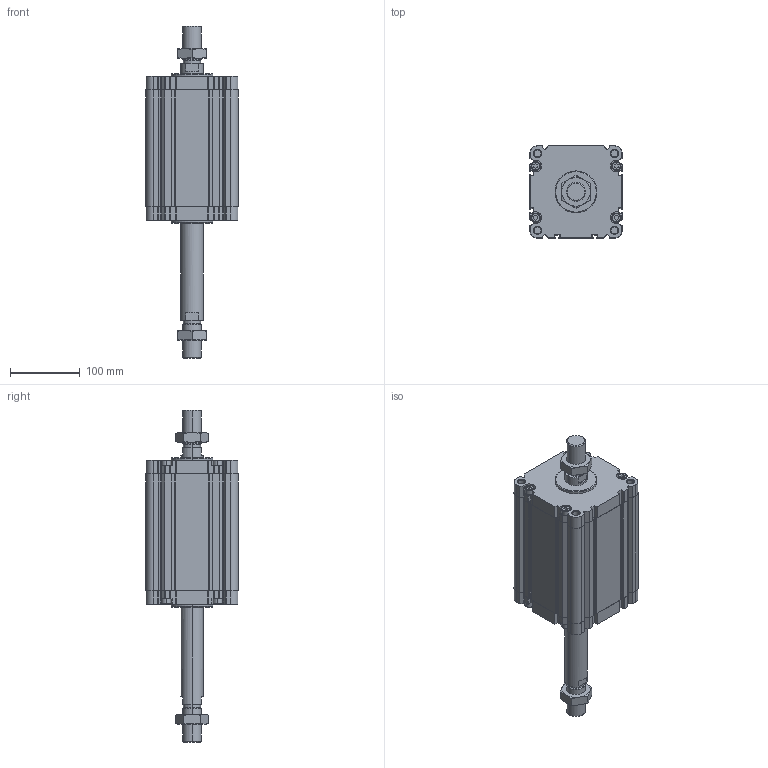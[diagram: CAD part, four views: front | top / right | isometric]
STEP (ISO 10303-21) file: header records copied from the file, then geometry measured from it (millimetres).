
FILE_DESCRIPTION (( 'STEP AP203' ), '1' );
FILE_NAME ('CDVU125-125M-P.STEP', '2020-07-21T16:46:04', ( '' ), ( '' ), 'SwSTEP 2.0', 'SolidWorks 2019', '' );
FILE_SCHEMA (( 'CONFIG_CONTROL_DESIGN' ));
Length unit declared in the file: millimetre
Products named in the file (1): CDVU125-125M-P
Bounding box: 132 x 132 x 475 mm (x, y, z)
Volume: 2252630.6 mm3; surface area: 334104 mm2
Topology: 4 solids, 4 shells, 702 faces, 1892 edges, 1230 vertices
Faces by surface type: plane 338, cylinder 280, cone 68, torus 16
Entity records: 22967 total; most frequent: CARTESIAN_POINT 4709, DIRECTION 3930, ORIENTED_EDGE 3776, EDGE_CURVE 1888, AXIS2_PLACEMENT_3D 1363, VERTEX_POINT 1230, LINE 1204, VECTOR 1204
